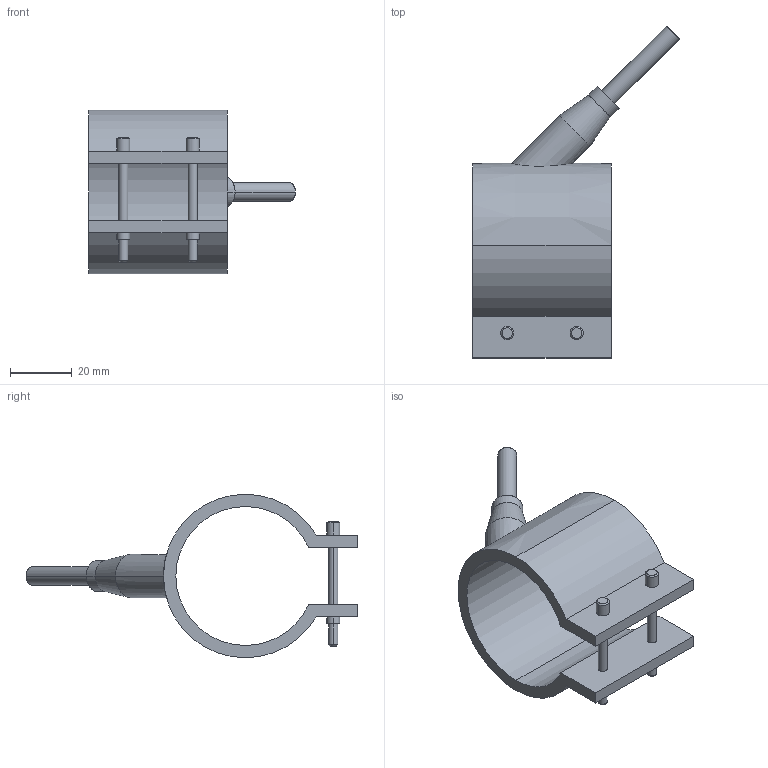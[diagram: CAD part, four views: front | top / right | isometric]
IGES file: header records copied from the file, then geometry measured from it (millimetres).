
Start section: START RECORD GO HERE.
Global section: file name: 29045045.igs; native system: DASSAULT SYSTEMES CATIA V5 R20 - www.3ds.com; preprocessor: CATIA Version 5 Release 20 ; author: Utente; organization: NB04-ASUS; date: 20210327.103405; units: millimetre
Bounding box: 67.05 x 107.55 x 53 mm (x, y, z)
Surface area: 18339.2 mm2 (no closed solid volume)
Topology: 0 solids, 0 shells, 54 faces, 244 edges, 244 vertices
Faces by surface type: revolution 38, plane 16
